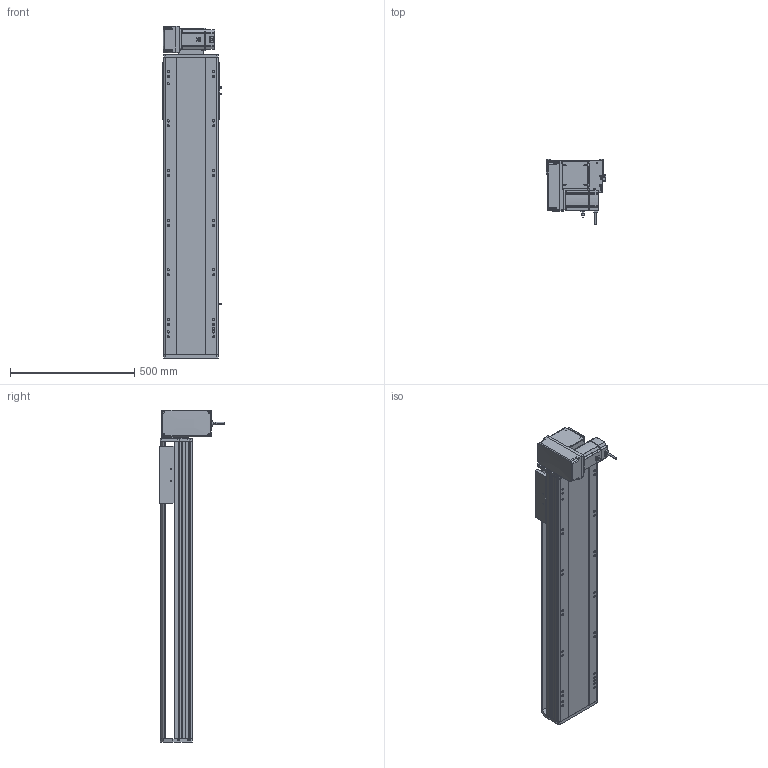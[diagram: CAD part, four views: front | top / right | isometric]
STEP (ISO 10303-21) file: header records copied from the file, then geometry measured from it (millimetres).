
FILE_DESCRIPTION (( 'STEP AP214' ), '1' );
FILE_NAME ('RTB22S-XX-850-LM-M75-C4.STEP', '2025-12-12T03:48:48', ( '' ), ( '' ), 'SwSTEP 2.0', 'SolidWorks 2018', '' );
FILE_SCHEMA (( 'AUTOMOTIVE_DESIGN' ));
Length unit declared in the file: millimetre
Products named in the file (14): RTB22S-GY-005P^RMP22S-LM-々湍釱蚾饜_RTB22S-XX-XX-LM-M75-C4; RTB22S-GY-018P^RMP22S-LM-々湍釱蚾饜_RTB22S-XX-XX-LM-M75-C4; RTB22S-L-004賑釱^RTB22S-XX-XX-LM-M75-C4; RTB22S-GY-001耜裔^RTB22S-XX-XX-LM-M75-C4; RTB22S-GY-007奻裔^RTB22S-XX-XX-LM-M75-C4; RTB22S-XX-850-LM-M75-C4; 750W萇儂^RTB22S-XX-XX-LM-M75-C4; OMRON EE-SX672 传感器^RTB22S-XX-XX-LM-M75-C4; RTB22S-GY-008-M75--萇儂啣^RMP22S-LM-々湍釱蚾饜_RTB22S-XX-XX-LM-M75-C4; RMP22S-LM-々湍釱蚾饜^RTB22S-XX-XX-LM-M75-C4; RTB22S-GY-017P^RMP22S-LM-々湍釱蚾饜_RTB22S-XX-XX-LM-M75-C4; RTB22S-L-011菁釱^RTB22S-XX-XX-LM-M75-C4; RTB22S-GY-014--々湍釱^RMP22S-LM-々湍釱蚾饜_RTB22S-XX-XX-LM-M75-C4; RTH22-GY-013外置感应片^RTB22S-XX-XX-LM-M75-C4
Assembly tree (16 placements, depth 3):
  RTB22S-XX-850-LM-M75-C4
    RTB22S-L-011菁釱^RTB22S-XX-XX-LM-M75-C4
    RTB22S-GY-001耜裔^RTB22S-XX-XX-LM-M75-C4
    750W萇儂^RTB22S-XX-XX-LM-M75-C4
    RTB22S-GY-007奻裔^RTB22S-XX-XX-LM-M75-C4
    RTB22S-L-004賑釱^RTB22S-XX-XX-LM-M75-C4
    RTH22-GY-013外置感应片^RTB22S-XX-XX-LM-M75-C4
    OMRON EE-SX672 传感器^RTB22S-XX-XX-LM-M75-C4  x3
    RMP22S-LM-々湍釱蚾饜^RTB22S-XX-XX-LM-M75-C4
      RTB22S-GY-014--々湍釱^RMP22S-LM-々湍釱蚾饜_RTB22S-XX-XX-LM-M75-C4
      RTB22S-GY-017P^RMP22S-LM-々湍釱蚾饜_RTB22S-XX-XX-LM-M75-C4  x2
      RTB22S-GY-005P^RMP22S-LM-々湍釱蚾饜_RTB22S-XX-XX-LM-M75-C4
      RTB22S-GY-008-M75--萇儂啣^RMP22S-LM-々湍釱蚾饜_RTB22S-XX-XX-LM-M75-C4
      RTB22S-GY-018P^RMP22S-LM-々湍釱蚾饜_RTB22S-XX-XX-LM-M75-C4
Bounding box: 238.5 x 264.7 x 1337.5 mm (x, y, z)
Volume: 19537872.7 mm3; surface area: 2042747.8 mm2
Topology: 15 solids, 15 shells, 1965 faces, 5336 edges, 3422 vertices
Faces by surface type: plane 913, cylinder 610, bspline 296, cone 134, sphere 8, torus 4
Entity records: 52110 total; most frequent: CARTESIAN_POINT 15024, ORIENTED_EDGE 7468, DIRECTION 7168, EDGE_CURVE 3734, AXIS2_PLACEMENT_3D 2522, VERTEX_POINT 2426, LINE 2124, VECTOR 2124
